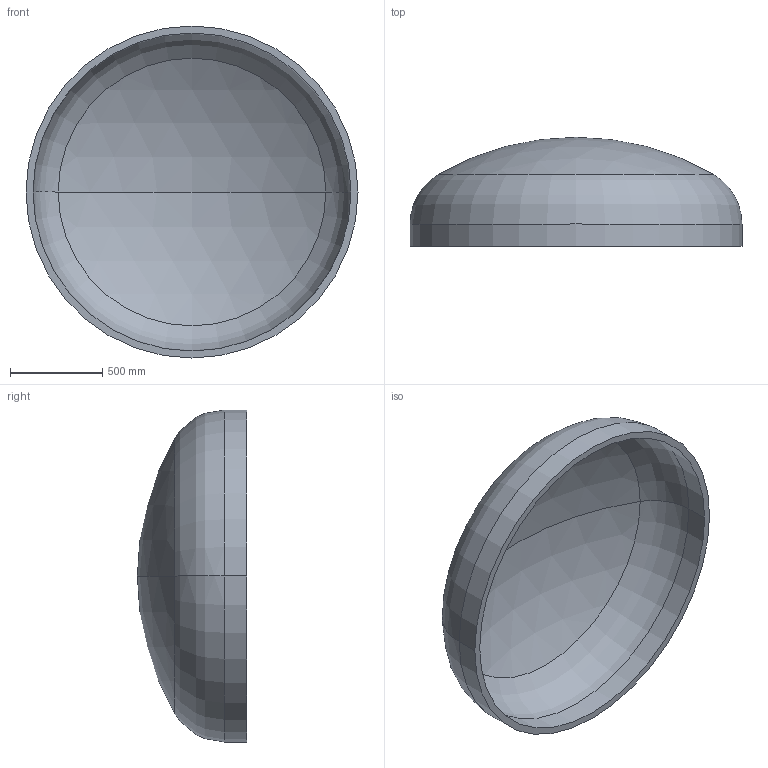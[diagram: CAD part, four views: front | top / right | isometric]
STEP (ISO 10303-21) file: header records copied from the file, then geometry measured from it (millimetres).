
FILE_DESCRIPTION (( 'STEP AP203' ), '1' );
FILE_NAME ('DIN 28013 Korbbogenform_-_Boden DIN 28013 - 1800 x 120 - I - s=38.step', '2016-07-01T12:28:54', ( '' ), ( '' ), 'SwSTEP 2.0', 'SolidWorks 2013', '' );
FILE_SCHEMA (( 'CONFIG_CONTROL_DESIGN' ));
Length unit declared in the file: millimetre
Products named in the file (1): DIN 28013 Korbbogenform_-_Boden DIN 28013 - 1800 x 120 - I - s=38
Bounding box: 1800 x 591.69 x 1800 mm (x, y, z)
Volume: 155293879.8 mm3; surface area: 8386732.3 mm2
Topology: 1 solids, 1 shells, 13 faces, 24 edges, 14 vertices
Faces by surface type: torus 4, cylinder 4, sphere 4, plane 1
Entity records: 407 total; most frequent: DIRECTION 72, CARTESIAN_POINT 52, ORIENTED_EDGE 48, AXIS2_PLACEMENT_3D 34, EDGE_CURVE 24, CIRCLE 20, VERTEX_POINT 14, EDGE_LOOP 14
